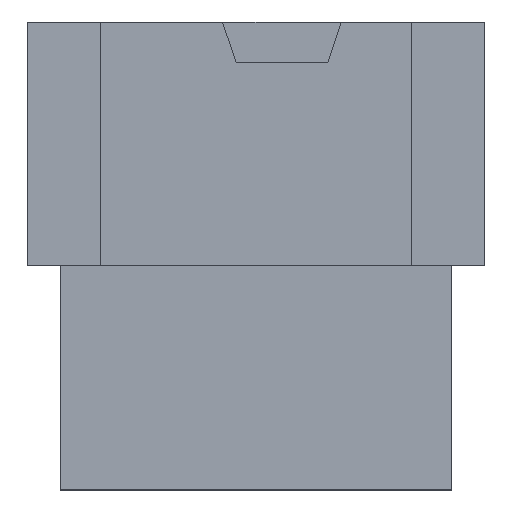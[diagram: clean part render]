
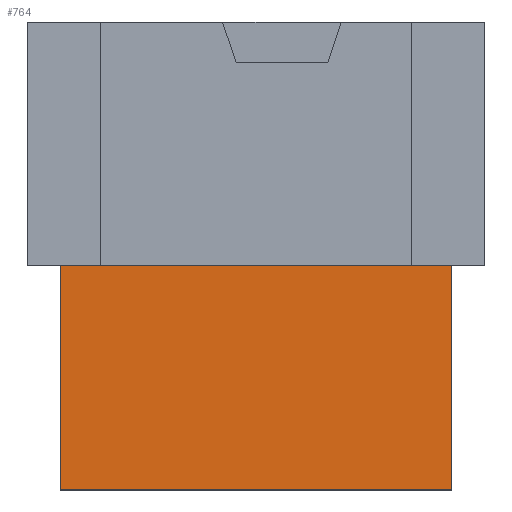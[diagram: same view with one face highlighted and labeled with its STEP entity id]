
A CAD part, top view. The second image highlights one B-rep face of the part: STEP entity #764.
In plain terms, the highlighted planar face has unit normal (0, 0, 1).
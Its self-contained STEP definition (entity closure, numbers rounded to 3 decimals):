
#744=AXIS2_PLACEMENT_3D('Plane Axis2P3D',#741,#742,#743) ;
#184=CARTESIAN_POINT('Vertex',(14.35,-18.25,7.5)) ;
#187=CARTESIAN_POINT('Line Origine',(0.,-18.25,7.5)) ;
#191=CARTESIAN_POINT('Vertex',(-14.35,-18.25,7.5)) ;
#722=CARTESIAN_POINT('Line Origine',(14.35,-10.025,7.5)) ;
#726=CARTESIAN_POINT('Vertex',(14.35,-1.8,7.5)) ;
#741=CARTESIAN_POINT('Axis2P3D Location',(14.924,-1.471,7.5)) ;
#746=CARTESIAN_POINT('Line Origine',(-14.35,-10.025,7.5)) ;
#750=CARTESIAN_POINT('Vertex',(-14.35,-1.8,7.5)) ;
#753=CARTESIAN_POINT('Line Origine',(0.,-1.8,7.5)) ;
#188=DIRECTION('Vector Direction',(1.,0.,0.)) ;
#723=DIRECTION('Vector Direction',(0.,1.,0.)) ;
#742=DIRECTION('Axis2P3D Direction',(0.,0.,1.)) ;
#743=DIRECTION('Axis2P3D XDirection',(-1.,0.,0.)) ;
#747=DIRECTION('Vector Direction',(0.,1.,0.)) ;
#754=DIRECTION('Vector Direction',(-1.,0.,0.)) ;
#189=VECTOR('Line Direction',#188,1.) ;
#724=VECTOR('Line Direction',#723,1.) ;
#748=VECTOR('Line Direction',#747,1.) ;
#755=VECTOR('Line Direction',#754,1.) ;
#759=ORIENTED_EDGE('',*,*,#752,.F.) ;
#760=ORIENTED_EDGE('',*,*,#193,.T.) ;
#761=ORIENTED_EDGE('',*,*,#728,.T.) ;
#762=ORIENTED_EDGE('',*,*,#757,.T.) ;
#764=ADVANCED_FACE('R2',(#763),#745,.T.) ;
#193=EDGE_CURVE('',#192,#185,#190,.T.) ;
#728=EDGE_CURVE('',#185,#727,#725,.T.) ;
#752=EDGE_CURVE('',#192,#751,#749,.T.) ;
#757=EDGE_CURVE('',#727,#751,#756,.T.) ;
#758=EDGE_LOOP('',(#759,#760,#761,#762)) ;
#763=FACE_OUTER_BOUND('',#758,.T.) ;
#190=LINE('Line',#187,#189) ;
#725=LINE('Line',#722,#724) ;
#749=LINE('Line',#746,#748) ;
#756=LINE('Line',#753,#755) ;
#745=PLANE('',#744) ;
#185=VERTEX_POINT('',#184) ;
#192=VERTEX_POINT('',#191) ;
#727=VERTEX_POINT('',#726) ;
#751=VERTEX_POINT('',#750) ;
